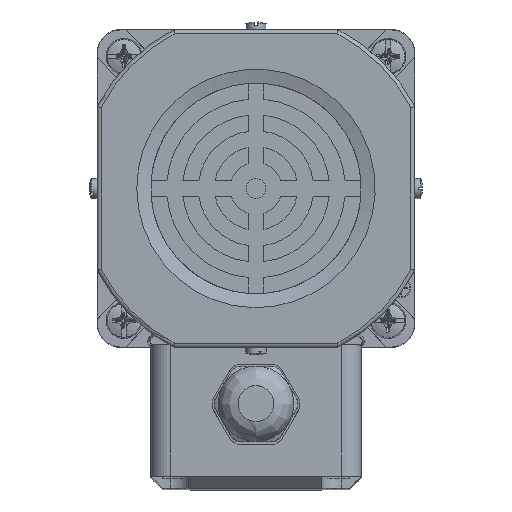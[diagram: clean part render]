
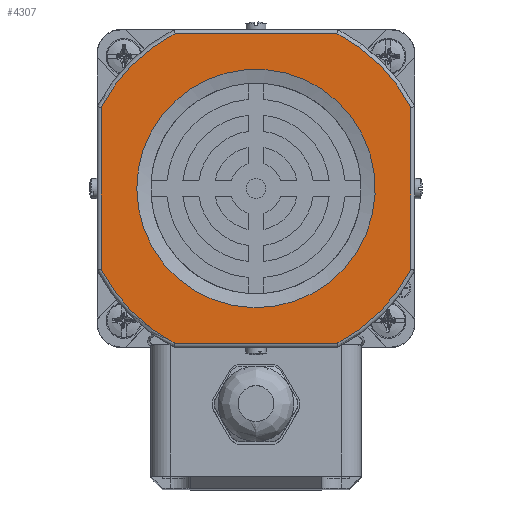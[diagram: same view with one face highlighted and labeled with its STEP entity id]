
A CAD part, left-side view. The second image highlights one B-rep face of the part: STEP entity #4307.
In plain terms, the highlighted planar face has unit normal (-1, 0, 0).
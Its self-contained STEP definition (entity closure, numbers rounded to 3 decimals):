
#4307=ADVANCED_FACE('',(#6759,#6760),#4720,.F.);
#4720=PLANE('',#20494);
#5393=LINE('',#36036,#6170);
#5397=LINE('',#36062,#6174);
#5400=LINE('',#36084,#6177);
#5401=LINE('',#36095,#6178);
#6170=VECTOR('',#23755,1.);
#6174=VECTOR('',#23771,1.);
#6177=VECTOR('',#23782,1.);
#6178=VECTOR('',#23789,1.);
#6759=FACE_BOUND('',#8152,.T.);
#6760=FACE_BOUND('',#8153,.T.);
#8152=EDGE_LOOP('',(#13651,#13652,#13653,#13654,#13655,#13656,#13657,#13658));
#8153=EDGE_LOOP('',(#13659));
#13651=ORIENTED_EDGE('',*,*,#17967,.T.);
#13652=ORIENTED_EDGE('',*,*,#17948,.T.);
#13653=ORIENTED_EDGE('',*,*,#17953,.T.);
#13654=ORIENTED_EDGE('',*,*,#17957,.T.);
#13655=ORIENTED_EDGE('',*,*,#17961,.T.);
#13656=ORIENTED_EDGE('',*,*,#17965,.T.);
#13657=ORIENTED_EDGE('',*,*,#17970,.T.);
#13658=ORIENTED_EDGE('',*,*,#17971,.T.);
#13659=ORIENTED_EDGE('',*,*,#18254,.T.);
#15315=VERTEX_POINT('',#36015);
#15316=VERTEX_POINT('',#36017);
#15318=VERTEX_POINT('',#36035);
#15320=VERTEX_POINT('',#36048);
#15322=VERTEX_POINT('',#36061);
#15324=VERTEX_POINT('',#36074);
#15325=VERTEX_POINT('',#36083);
#15326=VERTEX_POINT('',#36094);
#15501=VERTEX_POINT('',#40556);
#17948=EDGE_CURVE('',#15316,#15315,#18934,.T.);
#17953=EDGE_CURVE('',#15315,#15318,#5393,.T.);
#17957=EDGE_CURVE('',#15318,#15320,#18936,.T.);
#17961=EDGE_CURVE('',#15320,#15322,#5397,.T.);
#17965=EDGE_CURVE('',#15322,#15324,#18938,.T.);
#17967=EDGE_CURVE('',#15325,#15316,#5400,.T.);
#17970=EDGE_CURVE('',#15324,#15326,#5401,.T.);
#17971=EDGE_CURVE('',#15326,#15325,#18940,.T.);
#18254=EDGE_CURVE('',#15501,#15501,#19007,.T.);
#18934=CIRCLE('',#20298,44.);
#18936=CIRCLE('',#20304,44.);
#18938=CIRCLE('',#20310,44.);
#18940=CIRCLE('',#20316,44.);
#19007=CIRCLE('',#20492,30.);
#20298=AXIS2_PLACEMENT_3D('',#36016,#23746,#23747);
#20304=AXIS2_PLACEMENT_3D('',#36049,#23762,#23763);
#20310=AXIS2_PLACEMENT_3D('',#36075,#23778,#23779);
#20316=AXIS2_PLACEMENT_3D('',#36097,#23792,#23793);
#20492=AXIS2_PLACEMENT_3D('',#40555,#24240,#24241);
#20494=AXIS2_PLACEMENT_3D('',#40558,#24244,#24245);
#23746=DIRECTION('',(-1.,0.,0.));
#23747=DIRECTION('',(0.,0.,-1.));
#23755=DIRECTION('',(0.,0.,-1.));
#23762=DIRECTION('',(-1.,0.,0.));
#23763=DIRECTION('',(0.,0.,-1.));
#23771=DIRECTION('',(0.,-1.,0.));
#23778=DIRECTION('',(-1.,0.,0.));
#23779=DIRECTION('',(0.,0.,-1.));
#23782=DIRECTION('',(0.,1.,0.));
#23789=DIRECTION('',(0.,0.,1.));
#23792=DIRECTION('',(-1.,0.,0.));
#23793=DIRECTION('',(0.,0.,-1.));
#24240=DIRECTION('',(1.,0.,0.));
#24241=DIRECTION('',(0.,1.,0.));
#24244=DIRECTION('',(1.,0.,0.));
#24245=DIRECTION('',(0.,0.,-1.));
#36015=CARTESIAN_POINT('',(-102.,79.,60.372));
#36016=CARTESIAN_POINT('',(-102.,40.,40.));
#36017=CARTESIAN_POINT('',(-102.,60.372,79.));
#36035=CARTESIAN_POINT('',(-102.,79.,19.628));
#36036=CARTESIAN_POINT('',(-102.,79.,19.384));
#36048=CARTESIAN_POINT('',(-102.,60.372,1.));
#36049=CARTESIAN_POINT('',(-102.,40.,40.));
#36061=CARTESIAN_POINT('',(-102.,19.628,1.));
#36062=CARTESIAN_POINT('',(-102.,19.384,1.));
#36074=CARTESIAN_POINT('',(-102.,1.,19.628));
#36075=CARTESIAN_POINT('',(-102.,40.,40.));
#36083=CARTESIAN_POINT('',(-102.,19.628,79.));
#36084=CARTESIAN_POINT('',(-102.,60.616,79.));
#36094=CARTESIAN_POINT('',(-102.,1.,60.372));
#36095=CARTESIAN_POINT('',(-102.,1.,60.616));
#36097=CARTESIAN_POINT('',(-102.,40.,40.));
#40555=CARTESIAN_POINT('',(-102.,40.,40.));
#40556=CARTESIAN_POINT('',(-102.,70.,40.));
#40558=CARTESIAN_POINT('',(-102.,40.,40.));
